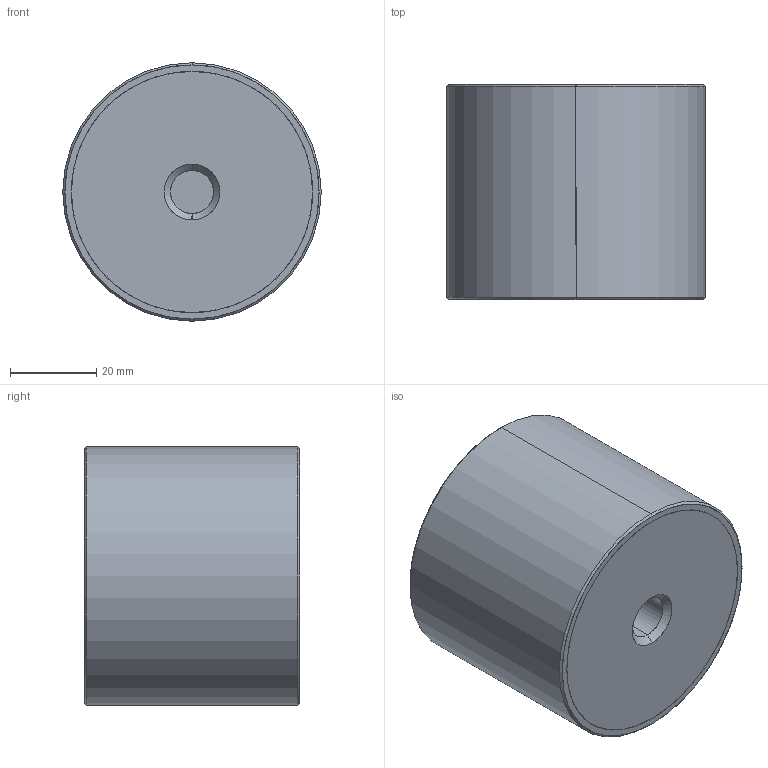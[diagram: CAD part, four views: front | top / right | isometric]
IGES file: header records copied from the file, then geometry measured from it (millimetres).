
Start section: SolidWorks IGES file using analytic representation for surfaces
Global section: file name: E:\WIXROYD 20180701\61080_v2\61080_v2_20180409_IGES\61080.W0603.igs; native system: SolidWorks 2017; preprocessor: SolidWorks 2017; author: liam_; date: 180716.214600; units: millimetre
Bounding box: 60 x 50 x 60 mm (x, y, z)
Surface area: 26141 mm2 (no closed solid volume)
Topology: 0 solids, 0 shells, 32 faces, 984 edges, 984 vertices
Faces by surface type: revolution 22, bspline 10
